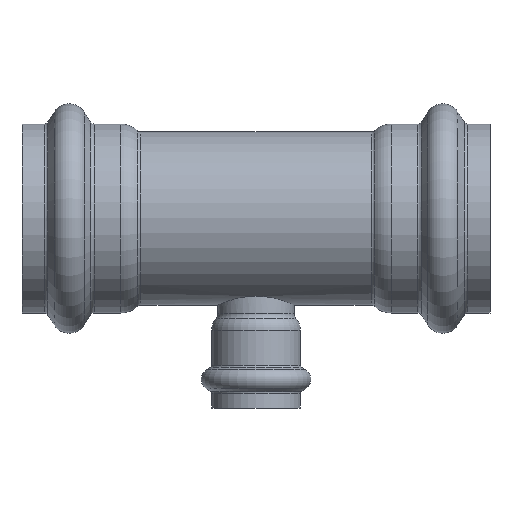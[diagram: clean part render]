
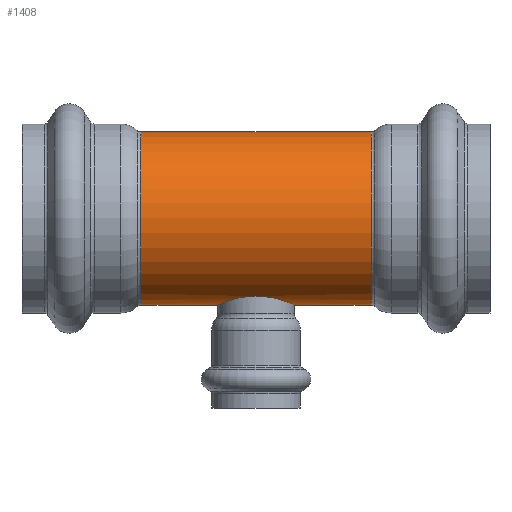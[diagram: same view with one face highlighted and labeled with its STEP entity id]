
A CAD part, top view. The second image highlights one B-rep face of the part: STEP entity #1408.
In plain terms, the highlighted cylindrical face has radius 30.163 mm (diameter 60.325 mm), a full revolution.
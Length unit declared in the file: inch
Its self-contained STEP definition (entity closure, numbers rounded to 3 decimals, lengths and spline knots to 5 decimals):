
#134=FACE_OUTER_BOUND('',#197,.T.);
#197=EDGE_LOOP('',(#1132,#1133,#1134,#1135,#1136,#1137,#1138,#1139,#1140,
#1141,#1142,#1143,#1144,#1145));
#334=CIRCLE('',#1605,1.1875);
#335=CIRCLE('',#1606,1.1875);
#336=CIRCLE('',#1607,1.1875);
#337=CIRCLE('',#1609,1.1875);
#338=CIRCLE('',#1610,1.1875);
#339=CIRCLE('',#1611,1.1875);
#420=LINE('',#2638,#450);
#421=LINE('',#2639,#451);
#450=VECTOR('',#2052,1.1875);
#451=VECTOR('',#2053,1.1875);
#460=B_SPLINE_CURVE_WITH_KNOTS('',3,(#2252,#2253,#2254,#2255,#2256,#2257,
#2258,#2259,#2260,#2261,#2262,#2263,#2264,#2265),.UNSPECIFIED.,.F.,.F.,
(4,2,2,2,2,2,4),(0.,0.25524,0.51049,1.02097,
1.53066,1.7855,2.04035),.UNSPECIFIED.);
#461=B_SPLINE_CURVE_WITH_KNOTS('',3,(#2267,#2268,#2269,#2270,#2271,#2272,
#2273,#2274,#2275,#2276,#2277,#2278,#2279,#2280),.UNSPECIFIED.,.F.,.F.,
(4,2,2,2,2,2,4),(6.12104,6.37589,6.63073,7.14042,
7.6509,7.90615,8.16139),.UNSPECIFIED.);
#462=B_SPLINE_CURVE_WITH_KNOTS('',3,(#2282,#2283,#2284,#2285,#2286,#2287,
#2288,#2289,#2290,#2291,#2292,#2293,#2294,#2295),.UNSPECIFIED.,.F.,.F.,
(4,2,2,2,2,2,4),(4.0807,4.33594,4.59118,5.10167,
5.61136,5.8662,6.12104),.UNSPECIFIED.);
#463=B_SPLINE_CURVE_WITH_KNOTS('',3,(#2301,#2302,#2303,#2304,#2305,#2306,
#2307,#2308,#2309,#2310,#2311,#2312,#2313,#2314),.UNSPECIFIED.,.F.,.F.,
(4,2,2,2,2,2,4),(2.04035,2.29519,2.55003,3.05972,
3.57021,3.82545,4.0807),.UNSPECIFIED.);
#468=VERTEX_POINT('',#2250);
#469=VERTEX_POINT('',#2251);
#470=VERTEX_POINT('',#2266);
#471=VERTEX_POINT('',#2281);
#572=VERTEX_POINT('',#2625);
#573=VERTEX_POINT('',#2627);
#574=VERTEX_POINT('',#2629);
#575=VERTEX_POINT('',#2633);
#576=VERTEX_POINT('',#2634);
#577=VERTEX_POINT('',#2636);
#628=EDGE_CURVE('',#468,#469,#460,.T.);
#629=EDGE_CURVE('',#470,#468,#461,.T.);
#630=EDGE_CURVE('',#471,#470,#462,.T.);
#634=EDGE_CURVE('',#469,#471,#463,.T.);
#772=EDGE_CURVE('',#573,#572,#334,.T.);
#773=EDGE_CURVE('',#574,#573,#335,.T.);
#774=EDGE_CURVE('',#572,#574,#336,.T.);
#775=EDGE_CURVE('',#575,#576,#337,.T.);
#776=EDGE_CURVE('',#577,#575,#338,.T.);
#777=EDGE_CURVE('',#577,#469,#420,.T.);
#778=EDGE_CURVE('',#470,#574,#421,.T.);
#779=EDGE_CURVE('',#576,#577,#339,.T.);
#1132=ORIENTED_EDGE('',*,*,#775,.F.);
#1133=ORIENTED_EDGE('',*,*,#776,.F.);
#1134=ORIENTED_EDGE('',*,*,#777,.T.);
#1135=ORIENTED_EDGE('',*,*,#634,.T.);
#1136=ORIENTED_EDGE('',*,*,#630,.T.);
#1137=ORIENTED_EDGE('',*,*,#778,.T.);
#1138=ORIENTED_EDGE('',*,*,#773,.T.);
#1139=ORIENTED_EDGE('',*,*,#772,.T.);
#1140=ORIENTED_EDGE('',*,*,#774,.T.);
#1141=ORIENTED_EDGE('',*,*,#778,.F.);
#1142=ORIENTED_EDGE('',*,*,#629,.T.);
#1143=ORIENTED_EDGE('',*,*,#628,.T.);
#1144=ORIENTED_EDGE('',*,*,#777,.F.);
#1145=ORIENTED_EDGE('',*,*,#779,.F.);
#1299=CYLINDRICAL_SURFACE('',#1608,1.1875);
#1408=ADVANCED_FACE('',(#134),#1299,.T.);
#1605=AXIS2_PLACEMENT_3D('',#2628,#2040,#2041);
#1606=AXIS2_PLACEMENT_3D('',#2630,#2042,#2043);
#1607=AXIS2_PLACEMENT_3D('',#2631,#2044,#2045);
#1608=AXIS2_PLACEMENT_3D('',#2632,#2046,#2047);
#1609=AXIS2_PLACEMENT_3D('',#2635,#2048,#2049);
#1610=AXIS2_PLACEMENT_3D('',#2637,#2050,#2051);
#1611=AXIS2_PLACEMENT_3D('',#2640,#2054,#2055);
#2040=DIRECTION('center_axis',(1.,0.,0.));
#2041=DIRECTION('ref_axis',(0.,1.,0.));
#2042=DIRECTION('center_axis',(1.,0.,0.));
#2043=DIRECTION('ref_axis',(0.,1.,0.));
#2044=DIRECTION('center_axis',(1.,0.,0.));
#2045=DIRECTION('ref_axis',(0.,1.,0.));
#2046=DIRECTION('center_axis',(1.,0.,0.));
#2047=DIRECTION('ref_axis',(0.,1.,0.));
#2048=DIRECTION('center_axis',(1.,0.,0.));
#2049=DIRECTION('ref_axis',(0.,1.,0.));
#2050=DIRECTION('center_axis',(1.,0.,0.));
#2051=DIRECTION('ref_axis',(0.,1.,0.));
#2052=DIRECTION('',(-1.,0.,0.));
#2053=DIRECTION('',(-1.,0.,0.));
#2054=DIRECTION('center_axis',(1.,0.,0.));
#2055=DIRECTION('ref_axis',(0.,1.,0.));
#2250=CARTESIAN_POINT('',(0.,-1.06514,0.525));
#2251=CARTESIAN_POINT('',(0.525,-1.1875,0.));
#2252=CARTESIAN_POINT('Ctrl Pts',(0.,-1.06514,
0.525));
#2253=CARTESIAN_POINT('Ctrl Pts',(0.0335,-1.06514,
0.525));
#2254=CARTESIAN_POINT('Ctrl Pts',(0.06796,-1.06677,
0.52174));
#2255=CARTESIAN_POINT('Ctrl Pts',(0.13618,-1.07328,0.50822));
#2256=CARTESIAN_POINT('Ctrl Pts',(0.16994,-1.07815,0.49796));
#2257=CARTESIAN_POINT('Ctrl Pts',(0.26669,-1.09619,0.45759));
#2258=CARTESIAN_POINT('Ctrl Pts',(0.32509,-1.1128,0.41737));
#2259=CARTESIAN_POINT('Ctrl Pts',(0.4173,-1.14314,0.32517));
#2260=CARTESIAN_POINT('Ctrl Pts',(0.45757,-1.15901,0.26673));
#2261=CARTESIAN_POINT('Ctrl Pts',(0.49798,-1.17574,0.1699));
#2262=CARTESIAN_POINT('Ctrl Pts',(0.50824,-1.18017,0.13612));
#2263=CARTESIAN_POINT('Ctrl Pts',(0.52175,-1.18605,0.06789));
#2264=CARTESIAN_POINT('Ctrl Pts',(0.525,-1.1875,0.03344));
#2265=CARTESIAN_POINT('Ctrl Pts',(0.525,-1.1875,0.));
#2266=CARTESIAN_POINT('',(-0.525,-1.1875,0.));
#2267=CARTESIAN_POINT('Ctrl Pts',(-0.525,-1.1875,0.));
#2268=CARTESIAN_POINT('Ctrl Pts',(-0.525,-1.1875,0.03344));
#2269=CARTESIAN_POINT('Ctrl Pts',(-0.52175,-1.18605,
0.06789));
#2270=CARTESIAN_POINT('Ctrl Pts',(-0.50824,-1.18017,
0.13612));
#2271=CARTESIAN_POINT('Ctrl Pts',(-0.49798,-1.17574,
0.1699));
#2272=CARTESIAN_POINT('Ctrl Pts',(-0.45757,-1.15901,
0.26673));
#2273=CARTESIAN_POINT('Ctrl Pts',(-0.4173,-1.14314,
0.32517));
#2274=CARTESIAN_POINT('Ctrl Pts',(-0.32509,-1.1128,
0.41737));
#2275=CARTESIAN_POINT('Ctrl Pts',(-0.26669,-1.09619,
0.45759));
#2276=CARTESIAN_POINT('Ctrl Pts',(-0.16994,-1.07815,
0.49796));
#2277=CARTESIAN_POINT('Ctrl Pts',(-0.13618,-1.07328,
0.50822));
#2278=CARTESIAN_POINT('Ctrl Pts',(-0.06796,-1.06677,
0.52174));
#2279=CARTESIAN_POINT('Ctrl Pts',(-0.0335,-1.06514,
0.525));
#2280=CARTESIAN_POINT('Ctrl Pts',(0.,-1.06514,0.525));
#2281=CARTESIAN_POINT('',(0.,-1.06514,-0.525));
#2282=CARTESIAN_POINT('Ctrl Pts',(0.,-1.06514,-0.525));
#2283=CARTESIAN_POINT('Ctrl Pts',(-0.0335,-1.06514,
-0.525));
#2284=CARTESIAN_POINT('Ctrl Pts',(-0.06796,-1.06677,
-0.52174));
#2285=CARTESIAN_POINT('Ctrl Pts',(-0.13618,-1.07328,
-0.50822));
#2286=CARTESIAN_POINT('Ctrl Pts',(-0.16994,-1.07815,
-0.49796));
#2287=CARTESIAN_POINT('Ctrl Pts',(-0.26669,-1.09619,
-0.45759));
#2288=CARTESIAN_POINT('Ctrl Pts',(-0.32509,-1.1128,
-0.41737));
#2289=CARTESIAN_POINT('Ctrl Pts',(-0.4173,-1.14314,
-0.32517));
#2290=CARTESIAN_POINT('Ctrl Pts',(-0.45757,-1.15901,
-0.26673));
#2291=CARTESIAN_POINT('Ctrl Pts',(-0.49798,-1.17574,
-0.1699));
#2292=CARTESIAN_POINT('Ctrl Pts',(-0.50824,-1.18017,
-0.13612));
#2293=CARTESIAN_POINT('Ctrl Pts',(-0.52175,-1.18605,
-0.06789));
#2294=CARTESIAN_POINT('Ctrl Pts',(-0.525,-1.1875,-0.03344));
#2295=CARTESIAN_POINT('Ctrl Pts',(-0.525,-1.1875,0.));
#2301=CARTESIAN_POINT('Ctrl Pts',(0.525,-1.1875,0.));
#2302=CARTESIAN_POINT('Ctrl Pts',(0.525,-1.1875,-0.03344));
#2303=CARTESIAN_POINT('Ctrl Pts',(0.52175,-1.18605,-0.06789));
#2304=CARTESIAN_POINT('Ctrl Pts',(0.50824,-1.18017,-0.13612));
#2305=CARTESIAN_POINT('Ctrl Pts',(0.49798,-1.17574,-0.1699));
#2306=CARTESIAN_POINT('Ctrl Pts',(0.45757,-1.15901,-0.26673));
#2307=CARTESIAN_POINT('Ctrl Pts',(0.4173,-1.14314,-0.32517));
#2308=CARTESIAN_POINT('Ctrl Pts',(0.32509,-1.1128,-0.41737));
#2309=CARTESIAN_POINT('Ctrl Pts',(0.26669,-1.09619,-0.45759));
#2310=CARTESIAN_POINT('Ctrl Pts',(0.16994,-1.07815,-0.49796));
#2311=CARTESIAN_POINT('Ctrl Pts',(0.13618,-1.07328,-0.50822));
#2312=CARTESIAN_POINT('Ctrl Pts',(0.06796,-1.06677,
-0.52174));
#2313=CARTESIAN_POINT('Ctrl Pts',(0.0335,-1.06514,
-0.525));
#2314=CARTESIAN_POINT('Ctrl Pts',(0.,-1.06514,
-0.525));
#2625=CARTESIAN_POINT('',(-1.58035,0.,1.1875));
#2627=CARTESIAN_POINT('',(-1.58035,1.1875,0.));
#2628=CARTESIAN_POINT('Origin',(-1.58035,0.,0.));
#2629=CARTESIAN_POINT('',(-1.58035,-1.1875,0.));
#2630=CARTESIAN_POINT('Origin',(-1.58035,0.,0.));
#2631=CARTESIAN_POINT('Origin',(-1.58035,0.,0.));
#2632=CARTESIAN_POINT('Origin',(0.79018,0.,0.));
#2633=CARTESIAN_POINT('',(1.58035,1.1875,0.));
#2634=CARTESIAN_POINT('',(1.58035,0.,1.1875));
#2635=CARTESIAN_POINT('Origin',(1.58035,0.,0.));
#2636=CARTESIAN_POINT('',(1.58035,-1.1875,0.));
#2637=CARTESIAN_POINT('Origin',(1.58035,0.,0.));
#2638=CARTESIAN_POINT('',(0.79018,-1.1875,0.));
#2639=CARTESIAN_POINT('',(0.79018,-1.1875,0.));
#2640=CARTESIAN_POINT('Origin',(1.58035,0.,0.));
